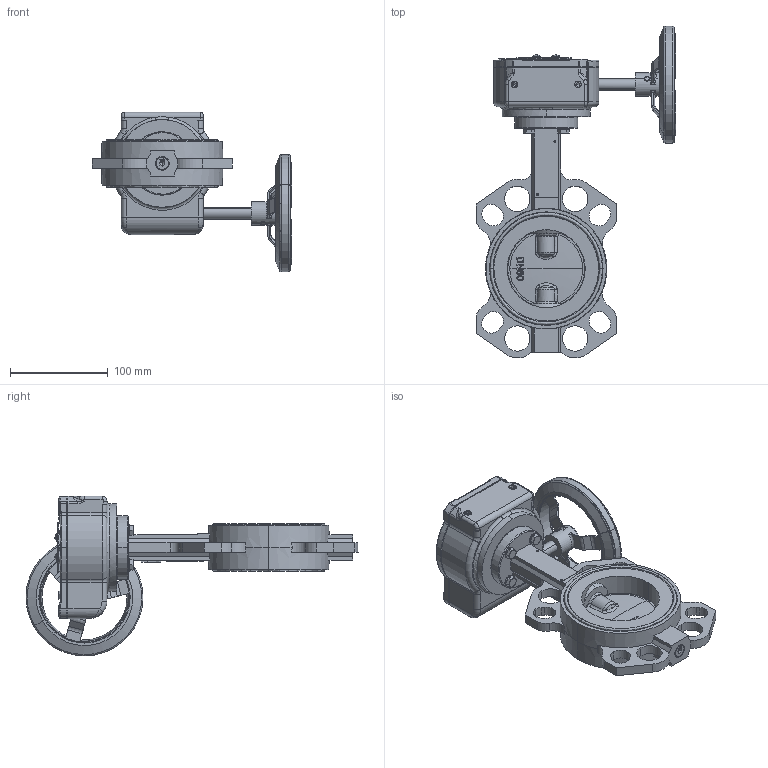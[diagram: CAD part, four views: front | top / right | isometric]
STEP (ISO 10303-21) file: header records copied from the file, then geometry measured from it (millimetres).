
FILE_DESCRIPTION (( 'STEP AP203' ), '1' );
FILE_NAME ('VPI-08 DN80.step', '2016-09-29T14:03:26', ( 'TECOFI' ), ( '' ), 'SwSTEP 2.0', 'SolidWorks 2014', '' );
FILE_SCHEMA (( 'CONFIG_CONTROL_DESIGN' ));
Length unit declared in the file: millimetre
Products named in the file (1): VPI-08 DN80
Bounding box: 205.08 x 340.54 x 163.75 mm (x, y, z)
Volume: 988559.4 mm3; surface area: 306422.1 mm2
Topology: 33 solids, 34 shells, 2723 faces, 7047 edges, 4412 vertices
Faces by surface type: plane 1038, cylinder 630, bspline 586, cone 255, torus 191, sphere 23
Entity records: 119685 total; most frequent: CARTESIAN_POINT 58181, ORIENTED_EDGE 13870, DIRECTION 11237, EDGE_CURVE 6935, VERTEX_POINT 4412, AXIS2_PLACEMENT_3D 4056, VECTOR 3125, LINE 3125
